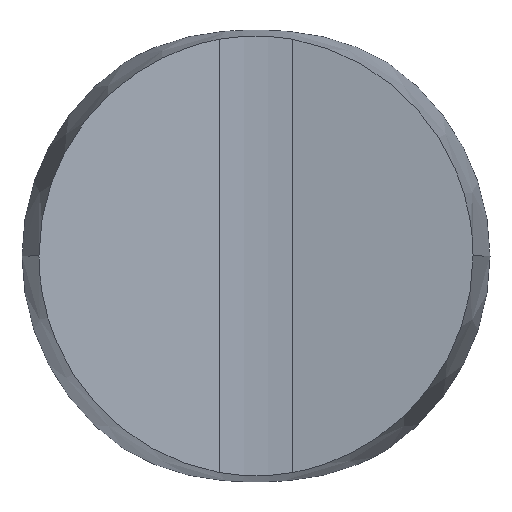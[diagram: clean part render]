
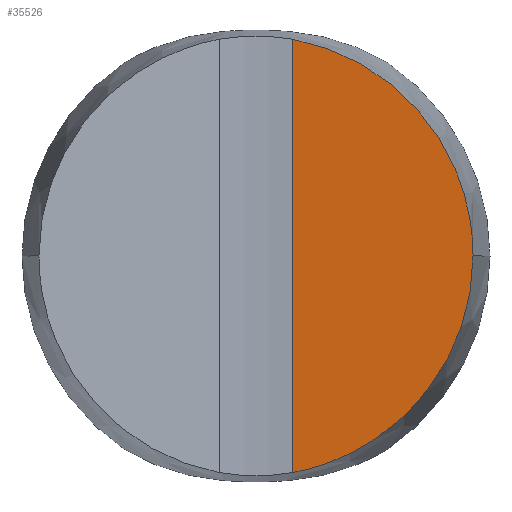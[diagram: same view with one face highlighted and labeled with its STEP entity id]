
A CAD part, top view. The second image highlights one B-rep face of the part: STEP entity #35526.
In plain terms, the highlighted planar face has unit normal (-0.122, 0, 0.993).
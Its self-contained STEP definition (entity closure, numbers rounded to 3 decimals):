
#28261= CARTESIAN_POINT(' ',(7.189,0.,4.572));
#28262= VERTEX_POINT(' ',#28261);
#28276= CARTESIAN_POINT(' ',(7.189,0.,4.572));
#28281= CARTESIAN_POINT(' ',(7.189,-0.56,4.572));
#28286= CARTESIAN_POINT(' ',(7.124,-1.12,4.564));
#28291= CARTESIAN_POINT(' ',(6.918,-1.998,4.539));
#28296= CARTESIAN_POINT(' ',(6.817,-2.323,4.526));
#28301= CARTESIAN_POINT(' ',(6.441,-3.294,4.48));
#28306= CARTESIAN_POINT(' ',(6.093,-3.91,4.437));
#28311= CARTESIAN_POINT(' ',(5.068,-5.234,4.312));
#28316= CARTESIAN_POINT(' ',(4.327,-5.875,4.221));
#28321= CARTESIAN_POINT(' ',(3.19,-6.518,4.081));
#28326= CARTESIAN_POINT(' ',(2.884,-6.664,4.044));
#28331= CARTESIAN_POINT(' ',(2.134,-6.96,3.951));
#28336= CARTESIAN_POINT(' ',(1.68,-7.09,3.896));
#28341= CARTESIAN_POINT(' ',(1.219,-7.176,3.839));
#28346= B_SPLINE_CURVE_WITH_KNOTS(' ',3,(#28276,#28281,#28286,#28291,#28296,#28301,#28306,#28311,#28316,#28321,#28326,#28331,#28336,#28341),.UNSPECIFIED.,.F.,.U.,(4,2,2,2,2,2,4),(0.,0.166,0.266,0.473,0.76,0.86,1.),.UNSPECIFIED.);
#28351= CARTESIAN_POINT(' ',(1.219,-7.176,3.839));
#28352= VERTEX_POINT(' ',#28351);
#28356= EDGE_CURVE(' ',#28262,#28352,#28346,.T.);
#28791= CARTESIAN_POINT(' ',(1.219,7.176,3.839));
#28792= VERTEX_POINT(' ',#28791);
#28806= CARTESIAN_POINT(' ',(1.219,7.176,3.839));
#28811= CARTESIAN_POINT(' ',(1.766,7.075,3.906));
#28816= CARTESIAN_POINT(' ',(2.301,6.911,3.972));
#28821= CARTESIAN_POINT(' ',(3.123,6.551,4.073));
#28826= CARTESIAN_POINT(' ',(3.424,6.394,4.11));
#28831= CARTESIAN_POINT(' ',(4.188,5.925,4.204));
#28836= CARTESIAN_POINT(' ',(4.63,5.578,4.258));
#28841= CARTESIAN_POINT(' ',(5.269,4.945,4.336));
#28846= CARTESIAN_POINT(' ',(5.493,4.689,4.364));
#28851= CARTESIAN_POINT(' ',(6.207,3.751,4.451));
#28856= CARTESIAN_POINT(' ',(6.598,2.997,4.5));
#28861= CARTESIAN_POINT(' ',(7.076,1.479,4.558));
#28866= CARTESIAN_POINT(' ',(7.189,0.74,4.572));
#28871= CARTESIAN_POINT(' ',(7.189,0.,4.572));
#28876= B_SPLINE_CURVE_WITH_KNOTS(' ',3,(#28806,#28811,#28816,#28821,#28826,#28831,#28836,#28841,#28846,#28851,#28856,#28861,#28866,#28871),.UNSPECIFIED.,.F.,.U.,(4,2,2,2,2,2,4),(0.,0.166,0.266,0.432,0.532,0.781,1.),.UNSPECIFIED.);
#28881= EDGE_CURVE(' ',#28792,#28262,#28876,.T.);
#35451= CARTESIAN_POINT(' ',(1.219,-7.176,3.839));
#35456= DIRECTION(' ',(-0.122,0.,0.993));
#35461= DIRECTION(' ',(0.993,0.,0.122));
#35466= AXIS2_PLACEMENT_3D(' ',#35451,#35456,#35461);
#35471= PLANE(' ',#35466);
#35476= ORIENTED_EDGE(' ',*,*,#28881,.F.);
#35481= CARTESIAN_POINT(' ',(1.219,-7.176,3.839));
#35486= DIRECTION(' ',(0.,1.,0.));
#35491= VECTOR(' ',#35486,1.);
#35496= LINE(' ',#35481,#35491);
#35501= EDGE_CURVE(' ',#28352,#28792,#35496,.T.);
#35506= ORIENTED_EDGE(' ',*,*,#35501,.F.);
#35511= ORIENTED_EDGE(' ',*,*,#28356,.F.);
#35516= EDGE_LOOP(' ',(#35476,#35506,#35511));
#35521= FACE_OUTER_BOUND(' ',#35516,.T.);
#35526= ADVANCED_FACE(' ',(#35521),#35471,.T.);
